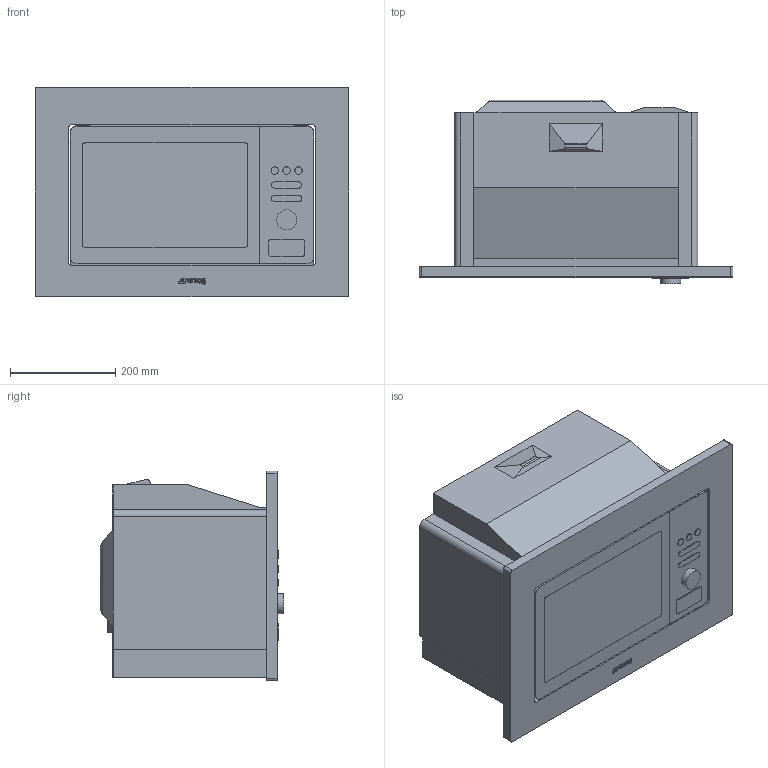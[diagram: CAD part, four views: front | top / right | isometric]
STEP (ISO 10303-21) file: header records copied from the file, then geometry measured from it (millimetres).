
FILE_DESCRIPTION(/* description */ (''),/* implementation_level */ '2;1');
FILE_NAME(/* name */ 'micro.stp',/* time_stamp */ '2018-03-14T14:42:47+01:00',/* author */ (''),/* organization */ (''),/* preprocessor_version */ 'ST-DEVELOPER v16',/* originating_system */ 'SIEMENS PLM Software NX 11.0',/* authorisation */ '');
FILE_SCHEMA (('AUTOMOTIVE_DESIGN { 1 0 10303 214 3 1 1 1 }'));
Length unit declared in the file: millimetre
Products named in the file (1): gobb1F2C9566klmq
Bounding box: 595.7 x 348.73 x 398.7 mm (x, y, z)
Volume: 52175083.4 mm3; surface area: 1649374.4 mm2
Topology: 23 solids, 23 shells, 218 faces, 495 edges, 330 vertices
Faces by surface type: plane 145, cylinder 62, extrusion 11
Full cylindrical faces by diameter (mm): 4.608 x6, 14 x3, 38.4 x1, 59 x4
Entity records: 6466 total; most frequent: CARTESIAN_POINT 1368, DIRECTION 1000, ORIENTED_EDGE 960, EDGE_CURVE 480, VECTOR 344, LINE 333, VERTEX_POINT 330, AXIS2_PLACEMENT_3D 328
